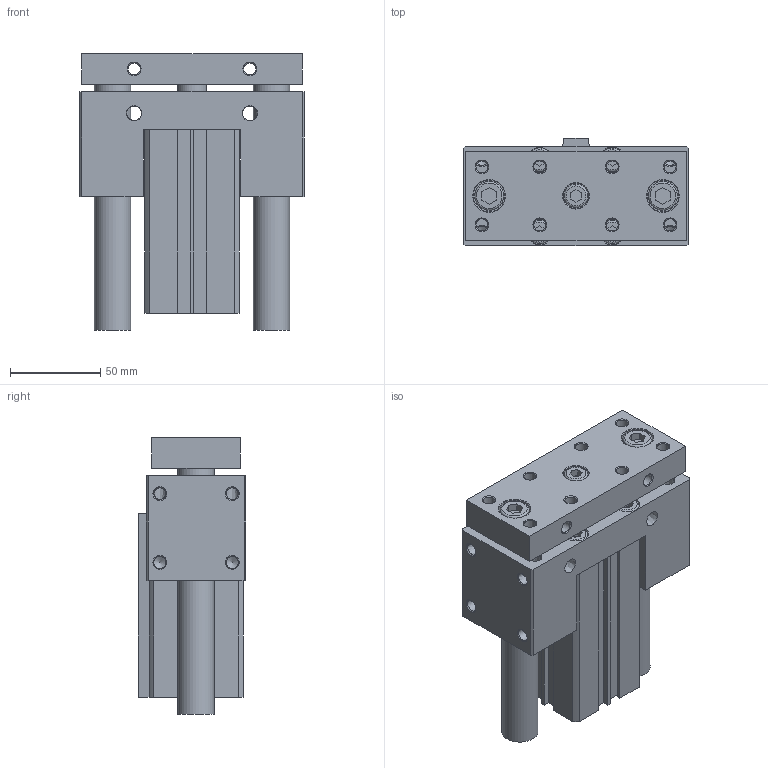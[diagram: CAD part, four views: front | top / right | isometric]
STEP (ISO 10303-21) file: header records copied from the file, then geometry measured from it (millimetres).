
FILE_DESCRIPTION((''),'2;1');
FILE_NAME('I:\3D電子目錄\氣缸\JCB\JCB\JCB40\JCB40x75.stp','2007-08-23T20:09:56',('Administrator'),(''),'Autodesk Inventor 11','Autodesk Inventor 11','');
FILE_SCHEMA(('AUTOMOTIVE_DESIGN { 1 0 10303 214 1 1 1 1 }'));
Length unit declared in the file: millimetre
Products named in the file (1): JCB40
Bounding box: 124 x 59.5 x 153 mm (x, y, z)
Volume: 640825.9 mm3; surface area: 136360.7 mm2
Topology: 3 solids, 3 shells, 303 faces, 731 edges, 473 vertices
Faces by surface type: plane 163, cylinder 52, cone 47, bspline 33, torus 8
Full cylindrical faces by diameter (mm): 2.2 x2, 6.647 x4, 6.8 x4, 10 x8, 13 x5, 14 x5, 16 x3, 17 x1, 17.5 x2, 20 x2, 23 x2, 28 x1, 29 x1, 42 x4, 44.5 x2
Entity records: 8528 total; most frequent: CARTESIAN_POINT 2090, DIRECTION 1302, ORIENTED_EDGE 1114, EDGE_CURVE 557, EDGE_LOOP 522, AXIS2_PLACEMENT_3D 480, VERTEX_POINT 435, VECTOR 342
